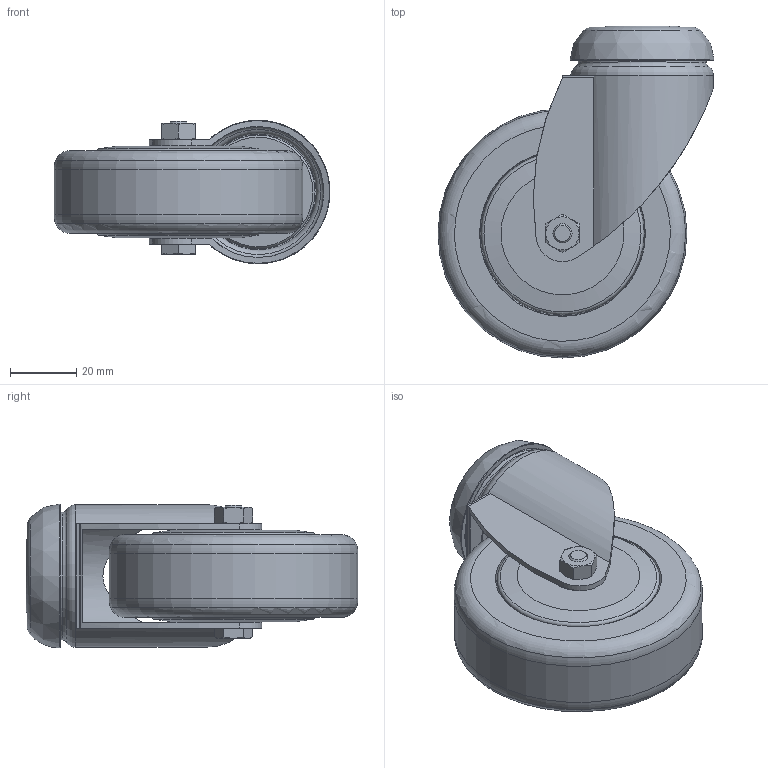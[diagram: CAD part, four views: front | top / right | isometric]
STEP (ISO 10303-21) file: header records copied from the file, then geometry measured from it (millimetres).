
FILE_DESCRIPTION(/* description */ ('INDUSTRIAL CASTOR Ø75 H=100'),/* implementation_level */ '2;1');
FILE_NAME(/* name */ '\\carryline.intra\privat\users\mathias\Desktop\Tillfälliga filer\100-1127.stp',/* time_stamp */ '2018-11-19T08:54:56+01:00',/* author */ ('PL'),/* organization */ ('WIBERGER'),/* preprocessor_version */ 'ST-DEVELOPER v17',/* originating_system */ 'Autodesk Inventor 2018',/* authorisation */ '');
FILE_SCHEMA (('AUTOMOTIVE_DESIGN { 1 0 10303 214 3 1 1 }'));
Length unit declared in the file: millimetre
Products named in the file (1): 100-1127
Bounding box: 83.16 x 100 x 43.31 mm (x, y, z)
Volume: 131002.2 mm3; surface area: 37213.6 mm2
Topology: 1 solids, 4 shells, 134 faces, 345 edges, 234 vertices
Faces by surface type: plane 46, cylinder 30, cone 28, torus 27, bspline 3
Full cylindrical faces by diameter (mm): 6 x3, 8.6 x2, 11 x1, 12 x1, 16 x3, 20.9 x1, 21.2 x1, 33 x1, 38.5 x1, 39.5 x1, 40.312 x1, 43 x1, 43.312 x1, 45.102 x2, 50 x2, 75 x1
Entity records: 5526 total; most frequent: CARTESIAN_POINT 2153, DIRECTION 748, ORIENTED_EDGE 690, EDGE_CURVE 345, AXIS2_PLACEMENT_3D 333, VERTEX_POINT 234, CIRCLE 201, EDGE_LOOP 159
